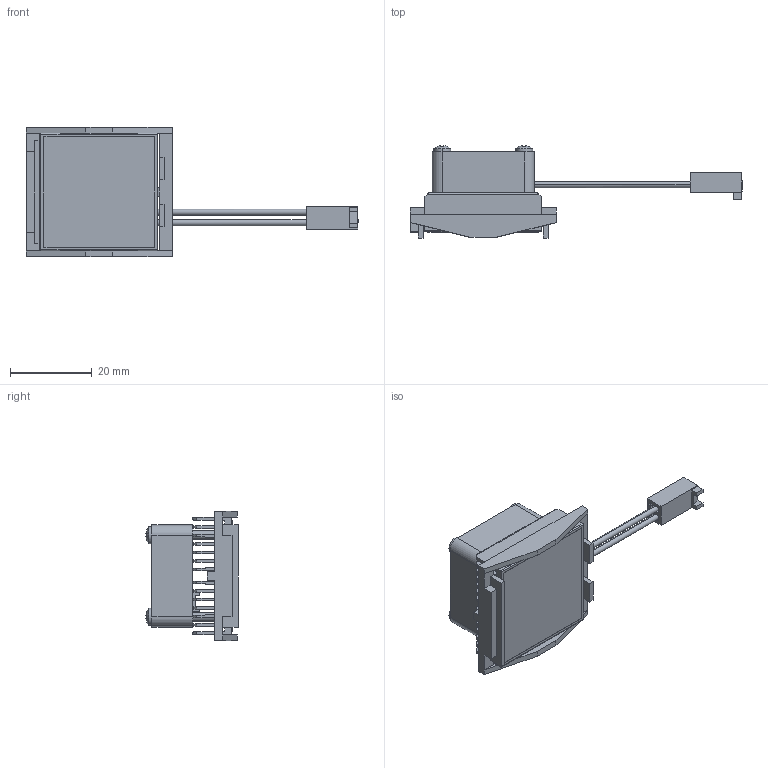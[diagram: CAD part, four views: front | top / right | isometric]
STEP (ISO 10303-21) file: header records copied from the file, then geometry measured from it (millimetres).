
FILE_DESCRIPTION (( 'STEP AP214' ), '1' );
FILE_NAME ('FJ29-1.7+B.STEP', '2023-03-22T00:36:22', ( '' ), ( '' ), 'SwSTEP 2.0', 'SolidWorks 2020', '' );
FILE_SCHEMA (( 'AUTOMOTIVE_DESIGN' ));
Length unit declared in the file: millimetre
Products named in the file (1): FJ29-1.7+B
Bounding box: 81.2 x 22.58 x 31.7 mm (x, y, z)
Volume: 8687.4 mm3; surface area: 16593.4 mm2
Topology: 8 solids, 8 shells, 391 faces, 1094 edges, 724 vertices
Faces by surface type: plane 291, cylinder 82, bspline 14, sphere 4
Entity records: 17207 total; most frequent: CARTESIAN_POINT 2760, ORIENTED_EDGE 2172, DIRECTION 1973, EDGE_CURVE 1086, LINE 789, VECTOR 789, VERTEX_POINT 720, AXIS2_PLACEMENT_3D 592
